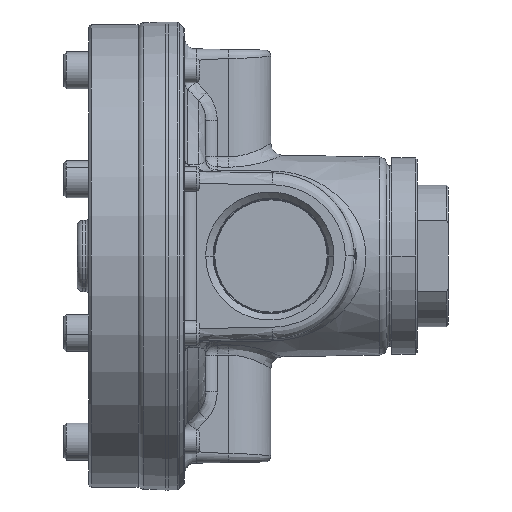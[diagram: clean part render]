
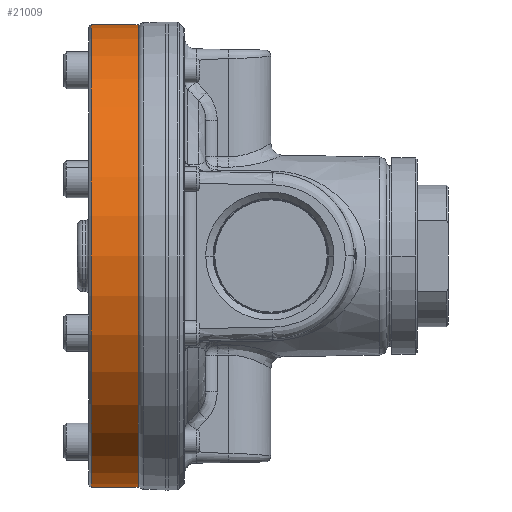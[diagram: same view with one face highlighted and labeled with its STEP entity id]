
A CAD part, left-side view. The second image highlights one B-rep face of the part: STEP entity #21009.
In plain terms, the highlighted cylindrical face has radius 59.373 mm (diameter 118.745 mm), a partial arc.
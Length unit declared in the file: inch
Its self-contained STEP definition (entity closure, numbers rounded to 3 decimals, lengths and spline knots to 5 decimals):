
#878 = CIRCLE ( 'NONE', #1148, 2.3375 ) ;
#941 = CIRCLE ( 'NONE', #951, 2.3375 ) ;
#951 = AXIS2_PLACEMENT_3D ( 'NONE', #22338, #22339, #22340 ) ;
#1148 = AXIS2_PLACEMENT_3D ( 'NONE', #22334, #22335, #22336 ) ;
#1174 = AXIS2_PLACEMENT_3D ( 'NONE', #9179, #9171, #9182 ) ;
#1949 = EDGE_CURVE ( 'NONE', #10058, #10057, #878, .T. ) ;
#1950 = EDGE_CURVE ( 'NONE', #10013, #10039, #941, .T. ) ;
#5970 = EDGE_CURVE ( 'NONE', #10039, #10058, #13498, .T. ) ;
#5972 = EDGE_CURVE ( 'NONE', #10013, #10057, #13507, .T. ) ;
#6619 = CARTESIAN_POINT ( 'NONE',  ( 0., 0.8175, 2.3375 ) ) ;
#6645 = CARTESIAN_POINT ( 'NONE',  ( 0., 0.8175, -2.3375 ) ) ;
#6663 = CARTESIAN_POINT ( 'NONE',  ( 0., 0.3425, 2.3375 ) ) ;
#6664 = CARTESIAN_POINT ( 'NONE',  ( 0., 0.3425, -2.3375 ) ) ;
#9171 = DIRECTION ( 'NONE',  ( 0., -1., 0. ) ) ;
#9178 = FACE_OUTER_BOUND ( 'NONE', #22183, .T. ) ;
#9179 = CARTESIAN_POINT ( 'NONE',  ( 0., 0.9575, 0. ) ) ;
#9181 = CYLINDRICAL_SURFACE ( 'NONE', #1174, 2.3375 ) ;
#9182 = DIRECTION ( 'NONE',  ( 0., 0., -1. ) ) ;
#10013 = VERTEX_POINT ( 'NONE', #6619 ) ;
#10039 = VERTEX_POINT ( 'NONE', #6645 ) ;
#10057 = VERTEX_POINT ( 'NONE', #6663 ) ;
#10058 = VERTEX_POINT ( 'NONE', #6664 ) ;
#12907 = VECTOR ( 'NONE', #13511, 39.37008 ) ;
#12974 = VECTOR ( 'NONE', #13504, 39.37008 ) ;
#13495 = CARTESIAN_POINT ( 'NONE',  ( 0., 0.9575, -2.3375 ) ) ;
#13498 = LINE ( 'NONE', #13495, #12974 ) ;
#13500 = CARTESIAN_POINT ( 'NONE',  ( 0., 0.9575, 2.3375 ) ) ;
#13504 = DIRECTION ( 'NONE',  ( 0., -1., 0. ) ) ;
#13507 = LINE ( 'NONE', #13500, #12907 ) ;
#13511 = DIRECTION ( 'NONE',  ( 0., -1., 0. ) ) ;
#18333 = ORIENTED_EDGE ( 'NONE', *, *, #5972, .F. ) ;
#18334 = ORIENTED_EDGE ( 'NONE', *, *, #1950, .T. ) ;
#18335 = ORIENTED_EDGE ( 'NONE', *, *, #5970, .T. ) ;
#18336 = ORIENTED_EDGE ( 'NONE', *, *, #1949, .T. ) ;
#21009 = ADVANCED_FACE ( 'NONE', ( #9178 ), #9181, .T. ) ;
#22183 = EDGE_LOOP ( 'NONE', ( #18333, #18334, #18335, #18336 ) ) ;
#22334 = CARTESIAN_POINT ( 'NONE',  ( 0., 0.3425, 0. ) ) ;
#22335 = DIRECTION ( 'NONE',  ( 0., 1., 0. ) ) ;
#22336 = DIRECTION ( 'NONE',  ( 0., 0., 1. ) ) ;
#22338 = CARTESIAN_POINT ( 'NONE',  ( 0., 0.8175, 0. ) ) ;
#22339 = DIRECTION ( 'NONE',  ( 0., -1., 0. ) ) ;
#22340 = DIRECTION ( 'NONE',  ( 0., 0., 1. ) ) ;
